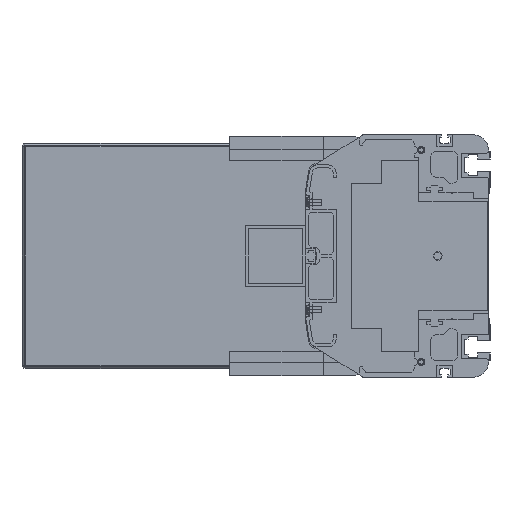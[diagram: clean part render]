
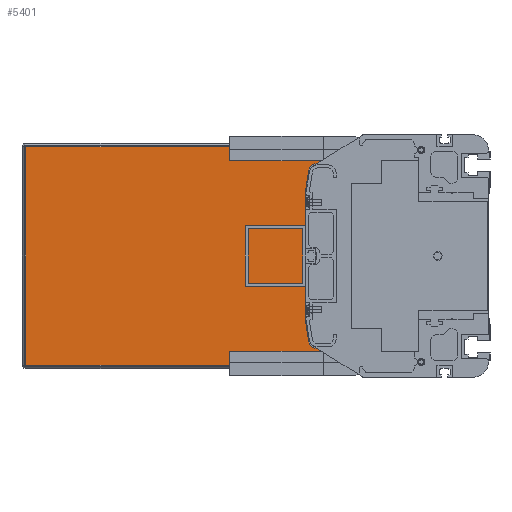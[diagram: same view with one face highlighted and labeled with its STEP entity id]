
A CAD part, left-side view. The second image highlights one B-rep face of the part: STEP entity #5401.
In plain terms, the highlighted planar face has unit normal (-1, 0, 0).
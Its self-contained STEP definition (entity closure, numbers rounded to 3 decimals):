
#527=DIRECTION('',(0.,0.,-1.));
#528=VECTOR('',#527,11.);
#529=CARTESIAN_POINT('',(4586.5,86.,72.));
#530=LINE('',#529,#528);
#551=DIRECTION('',(0.,0.,-1.));
#552=VECTOR('',#551,11.);
#553=CARTESIAN_POINT('',(4586.5,86.,-61.));
#554=LINE('',#553,#552);
#559=DIRECTION('',(0.,-1.,0.));
#560=VECTOR('',#559,28.728);
#561=CARTESIAN_POINT('',(4586.5,114.728,61.));
#562=LINE('',#561,#560);
#575=DIRECTION('',(0.,0.,1.));
#576=VECTOR('',#575,84.);
#577=CARTESIAN_POINT('',(4586.5,122.,-42.));
#578=LINE('',#577,#576);
#587=CARTESIAN_POINT('',(4586.5,114.728,56.));
#588=DIRECTION('',(-1.,0.,0.));
#589=DIRECTION('',(0.,0.,1.));
#590=AXIS2_PLACEMENT_3D('',#587,#588,#589);
#592=DIRECTION('',(0.,0.156,-0.988));
#593=VECTOR('',#592,14.963);
#594=CARTESIAN_POINT('',(4586.5,119.666,56.78));
#595=LINE('',#594,#593);
#596=DIRECTION('',(0.,-0.156,-0.988));
#597=VECTOR('',#596,14.963);
#598=CARTESIAN_POINT('',(4586.5,122.,-42.));
#599=LINE('',#598,#597);
#600=CARTESIAN_POINT('',(4586.5,114.728,-56.));
#601=DIRECTION('',(-1.,0.,0.));
#602=DIRECTION('',(0.,0.988,-0.156));
#603=AXIS2_PLACEMENT_3D('',#600,#601,#602);
#609=DIRECTION('',(0.,-1.,0.));
#610=VECTOR('',#609,220.5);
#611=CARTESIAN_POINT('',(4586.5,306.5,-72.));
#612=LINE('',#611,#610);
#1828=DIRECTION('',(0.,1.,0.));
#1829=VECTOR('',#1828,220.5);
#1830=CARTESIAN_POINT('',(4586.5,86.,72.));
#1831=LINE('',#1830,#1829);
#1855=DIRECTION('',(0.,0.,-1.));
#1856=VECTOR('',#1855,144.);
#1857=CARTESIAN_POINT('',(4586.5,306.5,72.));
#1858=LINE('',#1857,#1856);
#3549=DIRECTION('',(0.,1.,0.));
#3550=VECTOR('',#3549,28.728);
#3551=CARTESIAN_POINT('',(4586.5,86.,-61.));
#3552=LINE('',#3551,#3550);
#3891=CARTESIAN_POINT('',(4586.5,306.5,-72.));
#3892=CARTESIAN_POINT('',(4586.5,86.,-72.));
#3893=VERTEX_POINT('',#3891);
#3894=VERTEX_POINT('',#3892);
#3895=CARTESIAN_POINT('',(4586.5,86.,-61.));
#3896=VERTEX_POINT('',#3895);
#3897=CARTESIAN_POINT('',(4586.5,114.728,-61.));
#3898=VERTEX_POINT('',#3897);
#3899=CARTESIAN_POINT('',(4586.5,119.666,-56.78));
#3900=VERTEX_POINT('',#3899);
#3901=CARTESIAN_POINT('',(4586.5,122.,-42.));
#3902=VERTEX_POINT('',#3901);
#3903=CARTESIAN_POINT('',(4586.5,122.,42.));
#3904=VERTEX_POINT('',#3903);
#3905=CARTESIAN_POINT('',(4586.5,119.666,56.78));
#3906=VERTEX_POINT('',#3905);
#3907=CARTESIAN_POINT('',(4586.5,114.728,61.));
#3908=VERTEX_POINT('',#3907);
#3909=CARTESIAN_POINT('',(4586.5,86.,61.));
#3910=VERTEX_POINT('',#3909);
#3911=CARTESIAN_POINT('',(4586.5,86.,72.));
#3912=VERTEX_POINT('',#3911);
#3913=CARTESIAN_POINT('',(4586.5,306.5,72.));
#3914=VERTEX_POINT('',#3913);
#5376=CARTESIAN_POINT('',(4586.5,196.25,0.));
#5377=DIRECTION('',(1.,0.,0.));
#5378=DIRECTION('',(0.,0.,-1.));
#5379=AXIS2_PLACEMENT_3D('',#5376,#5377,#5378);
#5380=PLANE('',#5379);
#5382=ORIENTED_EDGE('',*,*,#5381,.F.);
#5384=ORIENTED_EDGE('',*,*,#5383,.F.);
#5386=ORIENTED_EDGE('',*,*,#5385,.F.);
#5387=ORIENTED_EDGE('',*,*,#5279,.T.);
#5388=ORIENTED_EDGE('',*,*,#5328,.F.);
#5389=ORIENTED_EDGE('',*,*,#5341,.T.);
#5390=ORIENTED_EDGE('',*,*,#5357,.T.);
#5391=ORIENTED_EDGE('',*,*,#5367,.F.);
#5393=ORIENTED_EDGE('',*,*,#5392,.T.);
#5395=ORIENTED_EDGE('',*,*,#5394,.T.);
#5397=ORIENTED_EDGE('',*,*,#5396,.F.);
#5398=ORIENTED_EDGE('',*,*,#5312,.T.);
#5399=EDGE_LOOP('',(#5382,#5384,#5386,#5387,#5388,#5389,#5390,#5391,#5393,#5395,
#5397,#5398));
#5400=FACE_OUTER_BOUND('',#5399,.F.);
#5401=ADVANCED_FACE('',(#5400),#5380,.F.);
#591=CIRCLE('',#590,5.);
#604=CIRCLE('',#603,5.);
#5279=EDGE_CURVE('',#3912,#3910,#530,.T.);
#5312=EDGE_CURVE('',#3896,#3894,#554,.T.);
#5328=EDGE_CURVE('',#3908,#3910,#562,.T.);
#5341=EDGE_CURVE('',#3908,#3906,#591,.T.);
#5357=EDGE_CURVE('',#3906,#3904,#595,.T.);
#5367=EDGE_CURVE('',#3902,#3904,#578,.T.);
#5381=EDGE_CURVE('',#3893,#3894,#612,.T.);
#5383=EDGE_CURVE('',#3914,#3893,#1858,.T.);
#5385=EDGE_CURVE('',#3912,#3914,#1831,.T.);
#5392=EDGE_CURVE('',#3902,#3900,#599,.T.);
#5394=EDGE_CURVE('',#3900,#3898,#604,.T.);
#5396=EDGE_CURVE('',#3896,#3898,#3552,.T.);
